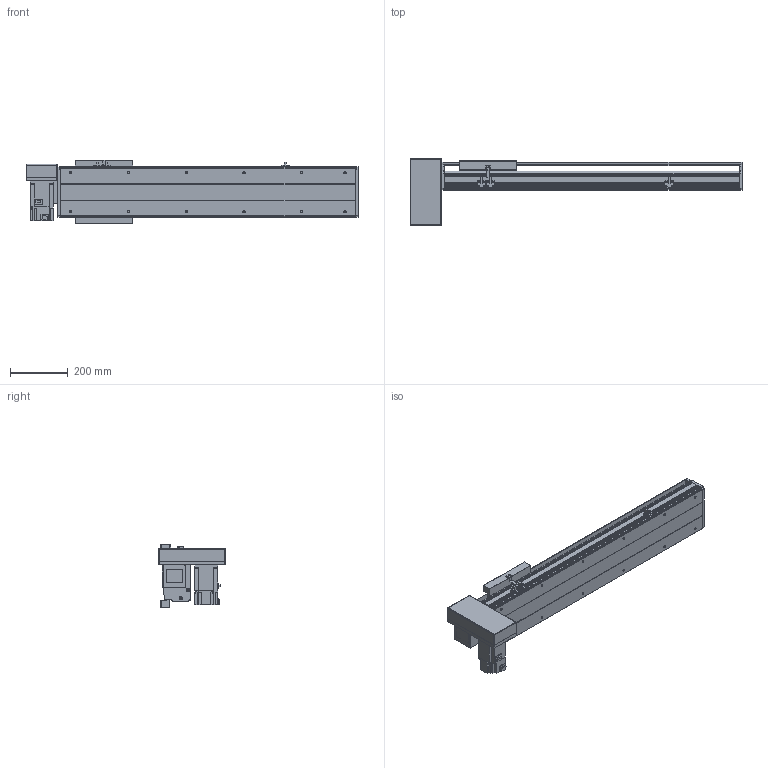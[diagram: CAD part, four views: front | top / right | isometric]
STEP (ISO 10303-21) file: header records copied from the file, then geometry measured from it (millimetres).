
FILE_DESCRIPTION(/* description */ ('STEP AP214'),/* implementation_level */ '2;1');
FILE_NAME(/* name */ 'PBS200-P40-S650-RD-T75-C1-N(0)',/* time_stamp */ '2022-06-11T09:28:22+02:00',/* author */ ('License CC BY-ND 4.0'),/* organization */ ('CADENAS'),/* preprocessor_version */ 'ST-DEVELOPER v18.102',/* originating_system */ 'PARTsolutions',/* authorisation */ ' ');
FILE_SCHEMA (('AUTOMOTIVE_DESIGN {1 0 10303 214 3 1 1}'));
Length unit declared in the file: millimetre
Products named in the file (7): PBS200-P40-S650-RD-T75-C1-N(0); PBS200_sensor; PBS200_plant; PBS200_sliser; T75-p1; PBS200T-RD_motors; PBS200-S650()_body
Assembly tree (8 placements, depth 2):
  PBS200-P40-S650-RD-T75-C1-N(0)
    PBS200_sensor  x3
    PBS200_plant
    PBS200_sliser
    T75-p1
    PBS200T-RD_motors
    PBS200-S650()_body
Bounding box: 1150 x 230 x 221 mm (x, y, z)
Volume: 9051852.1 mm3; surface area: 1474894.9 mm2
Topology: 8 solids, 8 shells, 908 faces, 2354 edges, 1536 vertices
Faces by surface type: plane 570, cylinder 294, cone 44
Full cylindrical faces by diameter (mm): 2.459 x6, 3.242 x4, 4.5 x6, 4.917 x4, 5 x6, 6 x7, 6.6 x8, 6.647 x16, 8 x6, 10 x4, 12 x8, 38 x2, 40 x1, 70 x1
Entity records: 24341 total; most frequent: DIRECTION 4279, CARTESIAN_POINT 4156, ORIENTED_EDGE 3958, EDGE_CURVE 1979, AXIS2_PLACEMENT_3D 1483, VERTEX_POINT 1360, LINE 1313, VECTOR 1313
